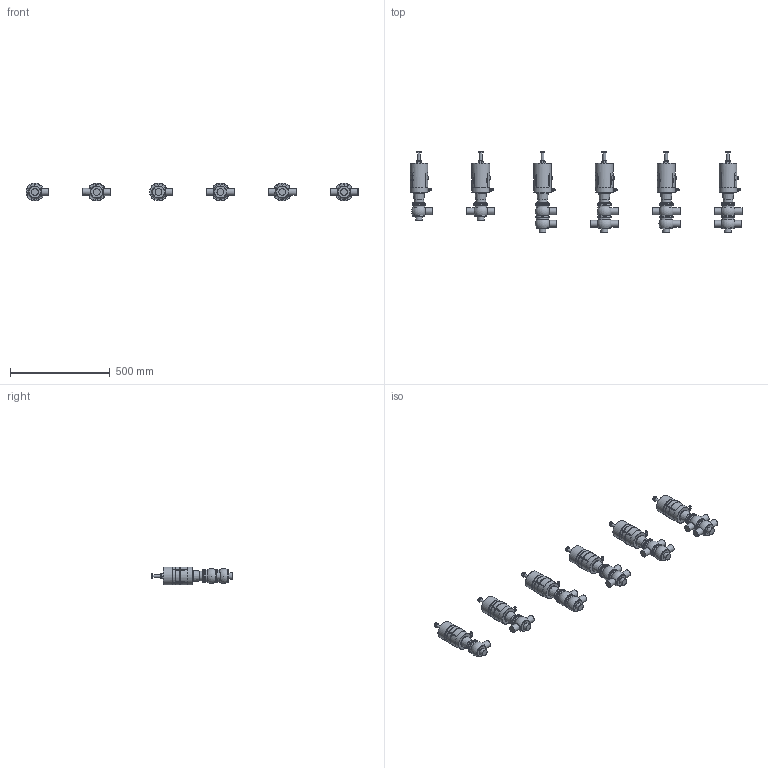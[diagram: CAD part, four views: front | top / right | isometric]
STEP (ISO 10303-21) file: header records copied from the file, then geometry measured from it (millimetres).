
FILE_DESCRIPTION((''),'2;1');
FILE_NAME('\\BV-SRV1\Ufficio tecnico\cad3d\PNEUMATICA\Ing1-1\pne bbzp e derivate\BBZS5\BBZS5-DN032-CIL83-SAL.iam.step','2009-10-19T10:17:45',(''),(''),'Autodesk Inventor 2010','Autodesk Inventor 2010','');
FILE_SCHEMA(('AUTOMOTIVE_DESIGN { 1 0 10303 214 1 1 1 1 }'));
Length unit declared in the file: millimetre
Products named in the file (7): BBZS5-DN032-CIL83-SAL; Assemblaggio-DN040; COR-INF-L-SAL-DN32; COR-INF-T-SAL-DN32; COR-SUP-L-SAL-DN32; COR-SUP-T-SAL-DN32; cil 83  tarabile
Assembly tree (22 placements, depth 2):
  BBZS5-DN032-CIL83-SAL
    Assemblaggio-DN040  x6
    COR-INF-L-SAL-DN32  x3
    COR-INF-T-SAL-DN32  x3
    COR-SUP-L-SAL-DN32  x2
    COR-SUP-T-SAL-DN32  x2
    cil 83  tarabile  x6
Bounding box: 1664.61 x 408.8 x 89.38 mm (x, y, z)
Volume: 9247293.2 mm3; surface area: 796145.7 mm2
Topology: 22 solids, 52 shells, 1332 faces, 3098 edges, 1861 vertices
Faces by surface type: plane 491, cylinder 349, cone 266, bspline 96, sphere 82, torus 48
Full cylindrical faces by diameter (mm): 4.9 x6, 6 x12, 7 x6, 8.3 x6, 10 x6, 11 x6, 11.5 x6, 14 x18, 19.37 x6, 34 x21, 49 x6, 57 x6, 61 x26, 69 x20, 84.813 x18, 86 x12, 86.1 x6, 88.5 x6, 89.5 x6
Entity records: 7462 total; most frequent: CARTESIAN_POINT 1992, DIRECTION 1084, ORIENTED_EDGE 908, AXIS2_PLACEMENT_3D 464, EDGE_CURVE 454, EDGE_LOOP 359, VERTEX_POINT 317, FACE_OUTER_BOUND 251
